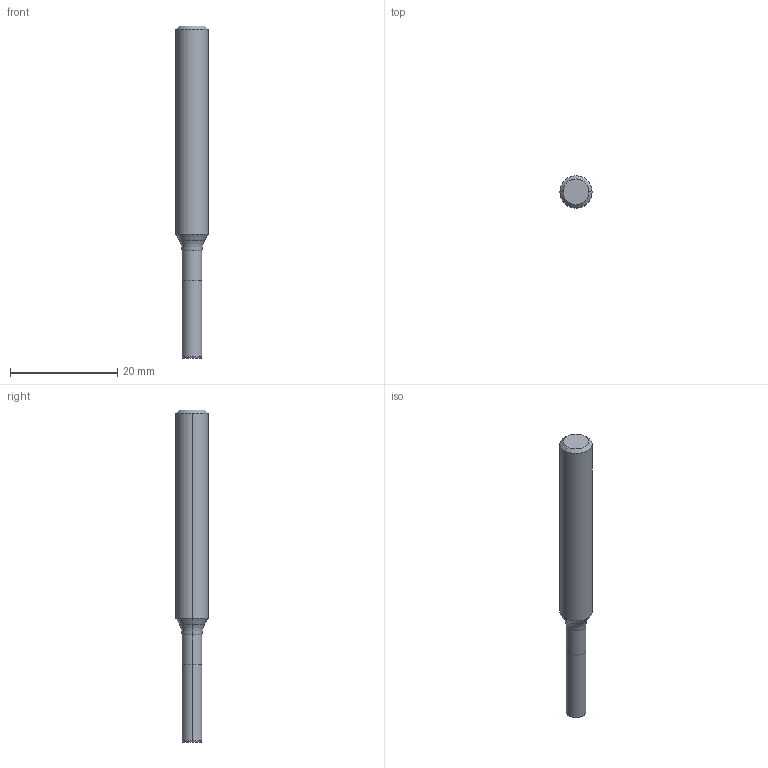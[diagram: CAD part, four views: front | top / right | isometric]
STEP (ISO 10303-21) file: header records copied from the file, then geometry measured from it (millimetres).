
FILE_DESCRIPTION (( 'STEP AP214' ), '1' );
FILE_NAME ('817.037.00_3D-model.step', '2022-02-23T23:05:17', ( '' ), ( '' ), 'SwSTEP 2.0', 'SolidWorks 2020', '' );
FILE_SCHEMA (( 'AUTOMOTIVE_DESIGN' ));
Length unit declared in the file: millimetre
Products named in the file (3): 817.037.00_3D-model; NOCUT-3D^Baugr16; CUT-3D^Baugr16
Assembly tree (2 placements, depth 2):
  817.037.00_3D-model
    CUT-3D^Baugr16
    NOCUT-3D^Baugr16
Bounding box: 6 x 6 x 62 mm (x, y, z)
Volume: 1362.9 mm3; surface area: 1066.4 mm2
Topology: 2 solids, 2 shells, 18 faces, 32 edges, 18 vertices
Faces by surface type: cylinder 6, cone 6, plane 4, torus 2
Entity records: 558 total; most frequent: DIRECTION 104, CARTESIAN_POINT 76, ORIENTED_EDGE 64, AXIS2_PLACEMENT_3D 46, EDGE_CURVE 32, CIRCLE 20, EDGE_LOOP 18, ADVANCED_FACE 18
